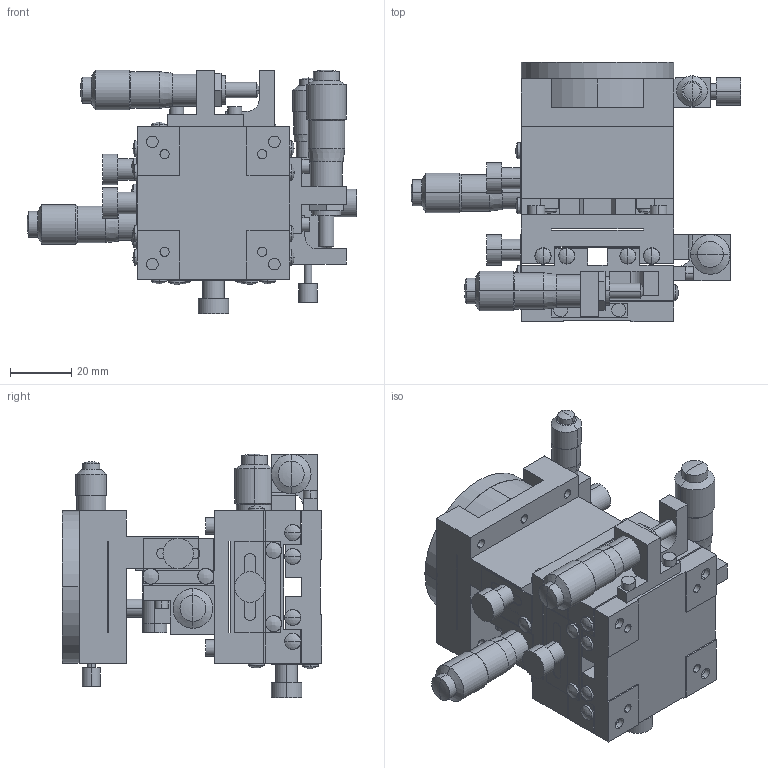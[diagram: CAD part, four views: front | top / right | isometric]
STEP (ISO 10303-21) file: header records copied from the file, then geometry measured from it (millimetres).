
FILE_DESCRIPTION (( 'STEP AP203' ), '1' );
FILE_NAME ('TR-5047-SR1.STEP', '2011-08-17T02:19:45', ( '' ), ( '' ), 'SwSTEP 2.0', 'SolidWorks 2011', '' );
FILE_SCHEMA (( 'CONFIG_CONTROL_DESIGN' ));
Length unit declared in the file: millimetre
Products named in the file (8): TR-5047-SR1; TR-5047-SR1-7; TR-5047-SR1-6; TR-5047-SR1-5; TR-5047-SR1-4; TR-5047-SR1-3; TR-5047-SR1-2; TR-5047-SR1-1
Assembly tree (7 placements, depth 2):
  TR-5047-SR1
    TR-5047-SR1-7
    TR-5047-SR1-6
    TR-5047-SR1-2
    TR-5047-SR1-5
    TR-5047-SR1-1
    TR-5047-SR1-3
    TR-5047-SR1-4
Bounding box: 108 x 85 x 79.8 mm (x, y, z)
Volume: 173682.8 mm3; surface area: 79744.6 mm2
Topology: 9 solids, 29 shells, 830 faces, 1978 edges, 1259 vertices
Faces by surface type: plane 378, cylinder 314, cone 80, sphere 40, bspline 10, torus 8
Entity records: 27109 total; most frequent: CARTESIAN_POINT 6216, DIRECTION 4440, ORIENTED_EDGE 3940, EDGE_CURVE 1970, AXIS2_PLACEMENT_3D 1669, VERTEX_POINT 1259, LINE 1102, VECTOR 1102
